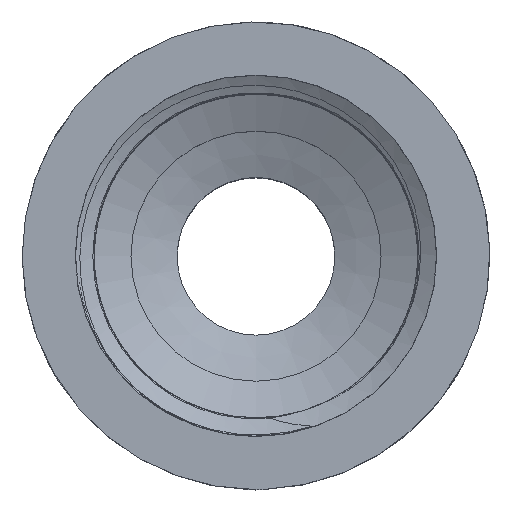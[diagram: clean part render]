
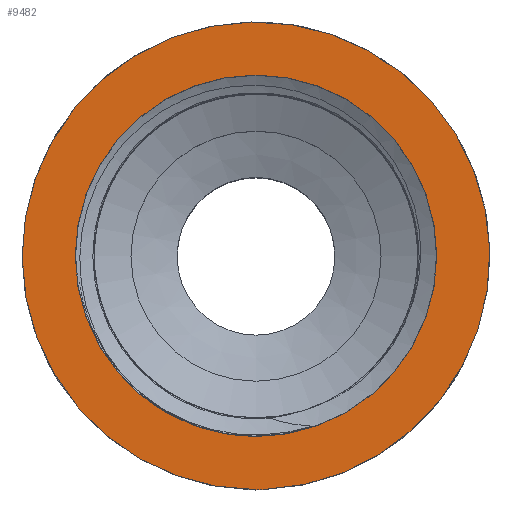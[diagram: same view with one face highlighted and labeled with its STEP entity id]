
A CAD part, top view. The second image highlights one B-rep face of the part: STEP entity #9482.
In plain terms, the highlighted planar face has unit normal (0, 0, 1).
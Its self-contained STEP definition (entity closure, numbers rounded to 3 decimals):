
#61=FACE_BOUND('',#2345,.T.);
#1262=PLANE('',#9912);
#1783=FACE_OUTER_BOUND('',#2344,.T.);
#2344=EDGE_LOOP('',(#8803,#8804));
#2345=EDGE_LOOP('',(#8805));
#3405=CIRCLE('',#9533,16.618);
#3425=CIRCLE('',#9562,21.5);
#3426=CIRCLE('',#9563,21.5);
#3637=VERTEX_POINT('',#11318);
#3669=VERTEX_POINT('',#11436);
#3670=VERTEX_POINT('',#11438);
#4615=EDGE_CURVE('',#3637,#3637,#3405,.T.);
#4661=EDGE_CURVE('',#3669,#3670,#3425,.T.);
#4662=EDGE_CURVE('',#3670,#3669,#3426,.T.);
#8803=ORIENTED_EDGE('',*,*,#4662,.F.);
#8804=ORIENTED_EDGE('',*,*,#4661,.F.);
#8805=ORIENTED_EDGE('',*,*,#4615,.T.);
#9482=ADVANCED_FACE('',(#1783,#61),#1262,.T.);
#9533=AXIS2_PLACEMENT_3D('',#11319,#9959,#9960);
#9562=AXIS2_PLACEMENT_3D('',#11439,#10027,#10028);
#9563=AXIS2_PLACEMENT_3D('',#11440,#10029,#10030);
#9912=AXIS2_PLACEMENT_3D('',#22340,#11215,#11216);
#9959=DIRECTION('center_axis',(0.,0.,-1.));
#9960=DIRECTION('ref_axis',(0.,-1.,0.));
#10027=DIRECTION('center_axis',(0.,0.,-1.));
#10028=DIRECTION('ref_axis',(1.,0.,0.));
#10029=DIRECTION('center_axis',(0.,0.,-1.));
#10030=DIRECTION('ref_axis',(1.,0.,0.));
#11215=DIRECTION('center_axis',(0.,0.,1.));
#11216=DIRECTION('ref_axis',(1.,0.,0.));
#11318=CARTESIAN_POINT('',(0.,16.618,57.));
#11319=CARTESIAN_POINT('Origin',(0.,0.,57.));
#11436=CARTESIAN_POINT('',(0.,-21.5,57.));
#11438=CARTESIAN_POINT('',(0.786,-21.486,57.));
#11439=CARTESIAN_POINT('Origin',(0.,0.,57.));
#11440=CARTESIAN_POINT('Origin',(0.,0.,57.));
#22340=CARTESIAN_POINT('Origin',(0.,21.5,57.));
